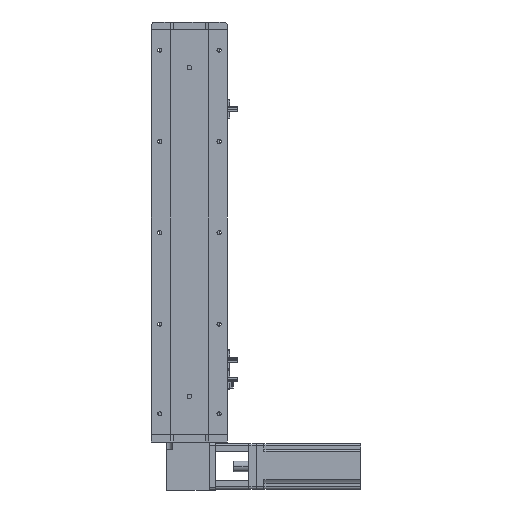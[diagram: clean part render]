
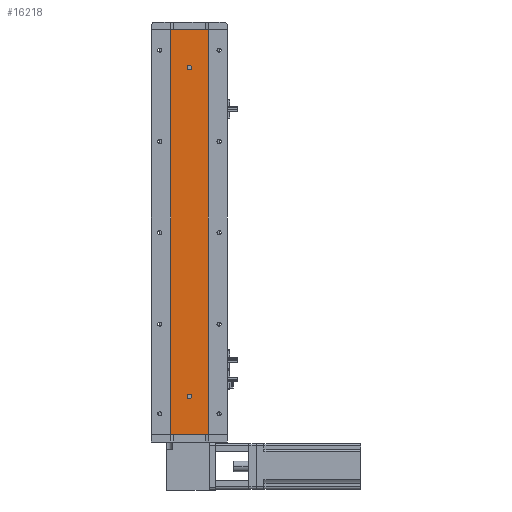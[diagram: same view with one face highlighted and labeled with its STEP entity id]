
A CAD part, left-side view. The second image highlights one B-rep face of the part: STEP entity #16218.
In plain terms, the highlighted planar face has unit normal (-1, 0, 0).
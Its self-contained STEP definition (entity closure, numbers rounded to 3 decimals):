
#470 = CARTESIAN_POINT ( 'NONE',  ( -18.926, 0., 482. ) ) ;
#597 = DIRECTION ( 'NONE',  ( 0., 0., 1. ) ) ;
#1382 = LINE ( 'NONE', #23561, #20131 ) ;
#1483 = LINE ( 'NONE', #34744, #28471 ) ;
#1761 = CARTESIAN_POINT ( 'NONE',  ( -18.926, 0., 50. ) ) ;
#2031 = CARTESIAN_POINT ( 'NONE',  ( -18.926, 0., 485. ) ) ;
#4044 = DIRECTION ( 'NONE',  ( 0., 0., 1. ) ) ;
#4253 = VERTEX_POINT ( 'NONE', #26158 ) ;
#5356 = DIRECTION ( 'NONE',  ( 0., 0., 1. ) ) ;
#5476 = LINE ( 'NONE', #43062, #41641 ) ;
#6174 = AXIS2_PLACEMENT_3D ( 'NONE', #7213, #31777, #10728 ) ;
#6405 = CIRCLE ( 'NONE', #12457, 3. ) ;
#6408 = VERTEX_POINT ( 'NONE', #18289 ) ;
#6562 = ORIENTED_EDGE ( 'NONE', *, *, #20043, .T. ) ;
#7194 = EDGE_LOOP ( 'NONE', ( #38158, #15878 ) ) ;
#7213 = CARTESIAN_POINT ( 'NONE',  ( -18.926, 0., 482. ) ) ;
#9602 = ORIENTED_EDGE ( 'NONE', *, *, #25488, .F. ) ;
#10209 = DIRECTION ( 'NONE',  ( 0., 0., -1. ) ) ;
#10728 = DIRECTION ( 'NONE',  ( 0., 0., 1. ) ) ;
#11733 = PLANE ( 'NONE',  #18643 ) ;
#11889 = CARTESIAN_POINT ( 'NONE',  ( -18.926, 24.785, 532. ) ) ;
#12457 = AXIS2_PLACEMENT_3D ( 'NONE', #470, #25143, #4044 ) ;
#12674 = AXIS2_PLACEMENT_3D ( 'NONE', #42646, #21708, #597 ) ;
#13488 = CARTESIAN_POINT ( 'NONE',  ( -18.926, 24.785, 0. ) ) ;
#15032 = DIRECTION ( 'NONE',  ( 0., 0., -1. ) ) ;
#15431 = DIRECTION ( 'NONE',  ( 0., 0., -1. ) ) ;
#15878 = ORIENTED_EDGE ( 'NONE', *, *, #17818, .F. ) ;
#16218 = ADVANCED_FACE ( 'NONE', ( #40134, #21519, #31937 ), #11733, .F. ) ;
#17683 = CARTESIAN_POINT ( 'NONE',  ( -18.926, 24.785, 532. ) ) ;
#17818 = EDGE_CURVE ( 'NONE', #4253, #39842, #25774, .T. ) ;
#18261 = LINE ( 'NONE', #27755, #27554 ) ;
#18289 = CARTESIAN_POINT ( 'NONE',  ( -18.926, -24.785, 532. ) ) ;
#18638 = VERTEX_POINT ( 'NONE', #37230 ) ;
#18643 = AXIS2_PLACEMENT_3D ( 'NONE', #11889, #36388, #15431 ) ;
#19327 = EDGE_CURVE ( 'NONE', #30052, #6408, #1483, .T. ) ;
#20043 = EDGE_CURVE ( 'NONE', #30052, #44310, #5476, .T. ) ;
#20131 = VECTOR ( 'NONE', #30581, 1000. ) ;
#21519 = FACE_BOUND ( 'NONE', #35232, .T. ) ;
#21667 = CARTESIAN_POINT ( 'NONE',  ( -18.926, 0., 53. ) ) ;
#21694 = EDGE_CURVE ( 'NONE', #44310, #18638, #1382, .T. ) ;
#21708 = DIRECTION ( 'NONE',  ( -1., 0., 0. ) ) ;
#22682 = EDGE_CURVE ( 'NONE', #39842, #4253, #32525, .T. ) ;
#23561 = CARTESIAN_POINT ( 'NONE',  ( -18.926, 24.785, 0. ) ) ;
#23887 = CIRCLE ( 'NONE', #6174, 3. ) ;
#25143 = DIRECTION ( 'NONE',  ( -1., 0., 0. ) ) ;
#25488 = EDGE_CURVE ( 'NONE', #35562, #31707, #6405, .T. ) ;
#25774 = CIRCLE ( 'NONE', #12674, 3. ) ;
#25999 = EDGE_CURVE ( 'NONE', #31707, #35562, #23887, .T. ) ;
#26158 = CARTESIAN_POINT ( 'NONE',  ( -18.926, 0., 47. ) ) ;
#26427 = DIRECTION ( 'NONE',  ( -1., 0., 0. ) ) ;
#26847 = EDGE_CURVE ( 'NONE', #6408, #18638, #18261, .T. ) ;
#27554 = VECTOR ( 'NONE', #10209, 1000. ) ;
#27755 = CARTESIAN_POINT ( 'NONE',  ( -18.926, -24.785, 532. ) ) ;
#27907 = AXIS2_PLACEMENT_3D ( 'NONE', #1761, #26427, #5356 ) ;
#28471 = VECTOR ( 'NONE', #38225, 1000. ) ;
#29730 = ORIENTED_EDGE ( 'NONE', *, *, #19327, .F. ) ;
#30052 = VERTEX_POINT ( 'NONE', #17683 ) ;
#30581 = DIRECTION ( 'NONE',  ( 0., -1., 0. ) ) ;
#30734 = ORIENTED_EDGE ( 'NONE', *, *, #21694, .T. ) ;
#31707 = VERTEX_POINT ( 'NONE', #2031 ) ;
#31777 = DIRECTION ( 'NONE',  ( -1., 0., 0. ) ) ;
#31937 = FACE_OUTER_BOUND ( 'NONE', #37666, .T. ) ;
#32525 = CIRCLE ( 'NONE', #27907, 3. ) ;
#34744 = CARTESIAN_POINT ( 'NONE',  ( -18.926, 24.785, 532. ) ) ;
#35232 = EDGE_LOOP ( 'NONE', ( #41926, #9602 ) ) ;
#35251 = ORIENTED_EDGE ( 'NONE', *, *, #26847, .F. ) ;
#35562 = VERTEX_POINT ( 'NONE', #37120 ) ;
#36388 = DIRECTION ( 'NONE',  ( 1., 0., 0. ) ) ;
#37120 = CARTESIAN_POINT ( 'NONE',  ( -18.926, 0., 479. ) ) ;
#37230 = CARTESIAN_POINT ( 'NONE',  ( -18.926, -24.785, 0. ) ) ;
#37666 = EDGE_LOOP ( 'NONE', ( #30734, #35251, #29730, #6562 ) ) ;
#38158 = ORIENTED_EDGE ( 'NONE', *, *, #22682, .F. ) ;
#38225 = DIRECTION ( 'NONE',  ( 0., -1., 0. ) ) ;
#39842 = VERTEX_POINT ( 'NONE', #21667 ) ;
#40134 = FACE_BOUND ( 'NONE', #7194, .T. ) ;
#41641 = VECTOR ( 'NONE', #15032, 1000. ) ;
#41926 = ORIENTED_EDGE ( 'NONE', *, *, #25999, .F. ) ;
#42646 = CARTESIAN_POINT ( 'NONE',  ( -18.926, 0., 50. ) ) ;
#43062 = CARTESIAN_POINT ( 'NONE',  ( -18.926, 24.785, 532. ) ) ;
#44310 = VERTEX_POINT ( 'NONE', #13488 ) ;
